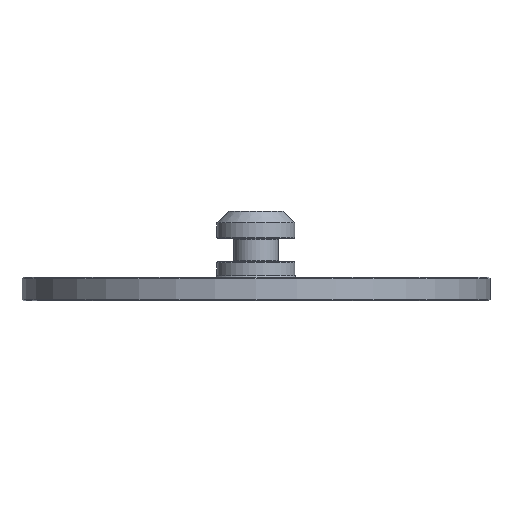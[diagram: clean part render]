
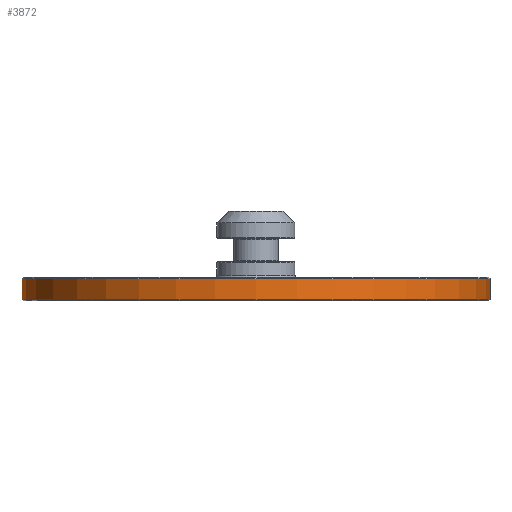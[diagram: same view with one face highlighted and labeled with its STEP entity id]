
A CAD part, front view. The second image highlights one B-rep face of the part: STEP entity #3872.
In plain terms, the highlighted cylindrical face has radius 60 mm (diameter 120 mm), a partial arc.
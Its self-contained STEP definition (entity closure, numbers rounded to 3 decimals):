
#197 = AXIS2_PLACEMENT_3D ( 'NONE', #4925, #6147, #3071 ) ;
#430 = DIRECTION ( 'NONE',  ( 0., 0., -1. ) ) ;
#525 = FACE_OUTER_BOUND ( 'NONE', #557, .T. ) ;
#557 = EDGE_LOOP ( 'NONE', ( #2340, #6962, #1802, #5392 ) ) ;
#781 = CARTESIAN_POINT ( 'NONE',  ( 60., 0., 6. ) ) ;
#1094 = DIRECTION ( 'NONE',  ( 0., 0., 1. ) ) ;
#1103 = AXIS2_PLACEMENT_3D ( 'NONE', #4123, #430, #4740 ) ;
#1802 = ORIENTED_EDGE ( 'NONE', *, *, #6733, .T. ) ;
#1843 = DIRECTION ( 'NONE',  ( 0., 0., -1. ) ) ;
#2211 = VERTEX_POINT ( 'NONE', #6342 ) ;
#2238 = VECTOR ( 'NONE', #7503, 1000. ) ;
#2340 = ORIENTED_EDGE ( 'NONE', *, *, #4848, .F. ) ;
#2654 = CARTESIAN_POINT ( 'NONE',  ( -60., 0., 0.3 ) ) ;
#2939 = CARTESIAN_POINT ( 'NONE',  ( 60., 0., 5.7 ) ) ;
#3071 = DIRECTION ( 'NONE',  ( -1., 0., 0. ) ) ;
#3522 = CIRCLE ( 'NONE', #6001, 60. ) ;
#3686 = EDGE_CURVE ( 'NONE', #6630, #4878, #7333, .T. ) ;
#3872 = ADVANCED_FACE ( 'NONE', ( #525 ), #5224, .T. ) ;
#4123 = CARTESIAN_POINT ( 'NONE',  ( 0., 0., 5.7 ) ) ;
#4201 = VECTOR ( 'NONE', #1843, 1000. ) ;
#4239 = VERTEX_POINT ( 'NONE', #2654 ) ;
#4740 = DIRECTION ( 'NONE',  ( 1., 0., 0. ) ) ;
#4803 = CARTESIAN_POINT ( 'NONE',  ( 0., 0., 0.3 ) ) ;
#4848 = EDGE_CURVE ( 'NONE', #6630, #2211, #5507, .T. ) ;
#4878 = VERTEX_POINT ( 'NONE', #5117 ) ;
#4911 = CARTESIAN_POINT ( 'NONE',  ( -60., 0., 6. ) ) ;
#4925 = CARTESIAN_POINT ( 'NONE',  ( 0., 0., 6. ) ) ;
#5117 = CARTESIAN_POINT ( 'NONE',  ( -60., 0., 5.7 ) ) ;
#5224 = CYLINDRICAL_SURFACE ( 'NONE', #197, 60. ) ;
#5392 = ORIENTED_EDGE ( 'NONE', *, *, #7088, .T. ) ;
#5410 = DIRECTION ( 'NONE',  ( 1., 0., 0. ) ) ;
#5507 = LINE ( 'NONE', #781, #2238 ) ;
#6001 = AXIS2_PLACEMENT_3D ( 'NONE', #4803, #1094, #5410 ) ;
#6147 = DIRECTION ( 'NONE',  ( 0., 0., -1. ) ) ;
#6342 = CARTESIAN_POINT ( 'NONE',  ( 60., 0., 0.3 ) ) ;
#6630 = VERTEX_POINT ( 'NONE', #2939 ) ;
#6733 = EDGE_CURVE ( 'NONE', #4878, #4239, #7438, .T. ) ;
#6962 = ORIENTED_EDGE ( 'NONE', *, *, #3686, .T. ) ;
#7088 = EDGE_CURVE ( 'NONE', #4239, #2211, #3522, .T. ) ;
#7333 = CIRCLE ( 'NONE', #1103, 60. ) ;
#7438 = LINE ( 'NONE', #4911, #4201 ) ;
#7503 = DIRECTION ( 'NONE',  ( 0., 0., -1. ) ) ;
